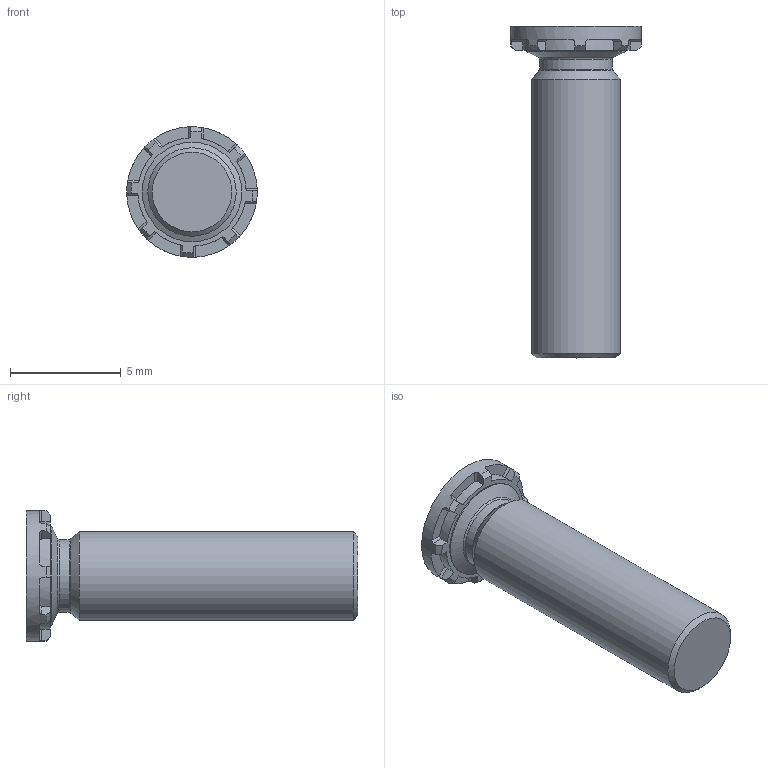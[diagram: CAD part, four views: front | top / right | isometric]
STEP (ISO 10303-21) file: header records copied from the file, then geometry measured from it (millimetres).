
FILE_DESCRIPTION(/* description */ (''),/* implementation_level */ '2;1');
FILE_NAME(/* name */ 'C:\Users\keval.kumar\Desktop\Fastit\Clinch Screw- FH Range\M4\Clinch Screw-FH Range_M4x15.stp',/* time_stamp */ '2024-03-12T11:57:49+05:00',/* author */ ('keval.kumar'),/* organization */ (''),/* preprocessor_version */ 'ST-DEVELOPER v18.1',/* originating_system */ 'Autodesk Inventor 2022',/* authorisation */ '');
FILE_SCHEMA (('AUTOMOTIVE_DESIGN { 1 0 10303 214 3 1 1 }'));
Length unit declared in the file: millimetre
Products named in the file (1): Clinch Screw-FH Range_M4x15
Bounding box: 5.9 x 15 x 5.9 mm (x, y, z)
Volume: 198.2 mm3; surface area: 250.3 mm2
Topology: 1 solids, 1 shells, 68 faces, 193 edges, 128 vertices
Faces by surface type: plane 43, cylinder 12, cone 11, torus 2
Full cylindrical faces by diameter (mm): 3.3 x1, 4 x1, 4.5 x1, 5.9 x1
Entity records: 2286 total; most frequent: DIRECTION 413, CARTESIAN_POINT 406, ORIENTED_EDGE 386, EDGE_CURVE 193, AXIS2_PLACEMENT_3D 159, VERTEX_POINT 128, LINE 95, VECTOR 95
